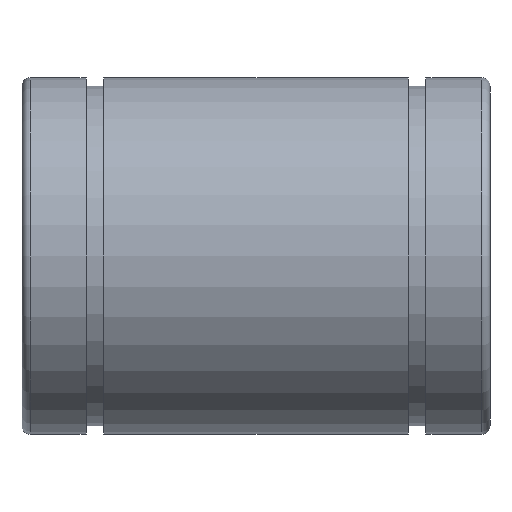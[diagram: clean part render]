
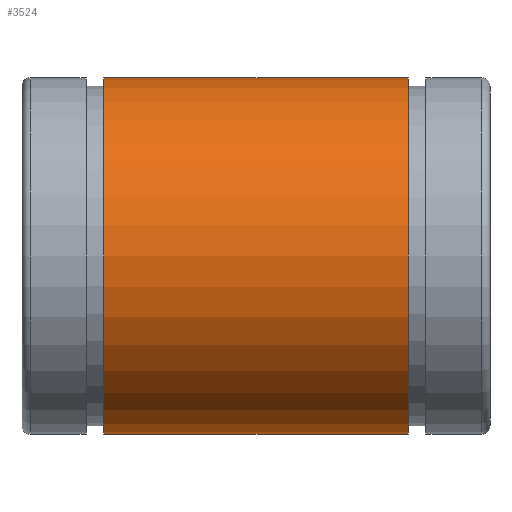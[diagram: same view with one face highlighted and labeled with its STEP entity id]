
A CAD part, front view. The second image highlights one B-rep face of the part: STEP entity #3524.
In plain terms, the highlighted cylindrical face has radius 16 mm (diameter 32 mm), a full revolution.
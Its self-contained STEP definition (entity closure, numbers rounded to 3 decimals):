
#23=CYLINDRICAL_SURFACE('',#3667,16.);
#38=CIRCLE('',#3668,16.);
#39=CIRCLE('',#3669,16.);
#67=FACE_BOUND('',#518,.T.);
#310=FACE_OUTER_BOUND('',#517,.T.);
#517=EDGE_LOOP('',(#3146));
#518=EDGE_LOOP('',(#3147));
#1699=VERTEX_POINT('',#6218);
#1700=VERTEX_POINT('',#6220);
#2188=EDGE_CURVE('',#1699,#1699,#38,.T.);
#2189=EDGE_CURVE('',#1700,#1700,#39,.T.);
#3146=ORIENTED_EDGE('',*,*,#2188,.F.);
#3147=ORIENTED_EDGE('',*,*,#2189,.T.);
#3524=ADVANCED_FACE('',(#310,#67),#23,.T.);
#3667=AXIS2_PLACEMENT_3D('',#6217,#4310,#4311);
#3668=AXIS2_PLACEMENT_3D('',#6219,#4312,#4313);
#3669=AXIS2_PLACEMENT_3D('',#6221,#4314,#4315);
#4310=DIRECTION('center_axis',(1.,0.,0.));
#4311=DIRECTION('ref_axis',(0.,1.,0.));
#4312=DIRECTION('center_axis',(1.,0.,0.));
#4313=DIRECTION('ref_axis',(0.,1.,0.));
#4314=DIRECTION('center_axis',(1.,0.,0.));
#4315=DIRECTION('ref_axis',(0.,1.,0.));
#6217=CARTESIAN_POINT('Origin',(0.,0.,0.));
#6218=CARTESIAN_POINT('',(13.65,-16.,0.));
#6219=CARTESIAN_POINT('Origin',(13.65,0.,0.));
#6220=CARTESIAN_POINT('',(-13.65,-16.,0.));
#6221=CARTESIAN_POINT('Origin',(-13.65,0.,0.));
